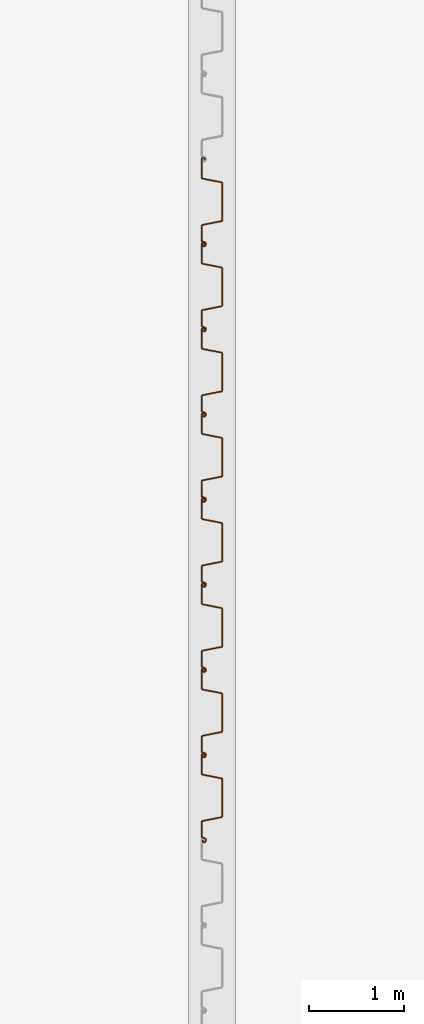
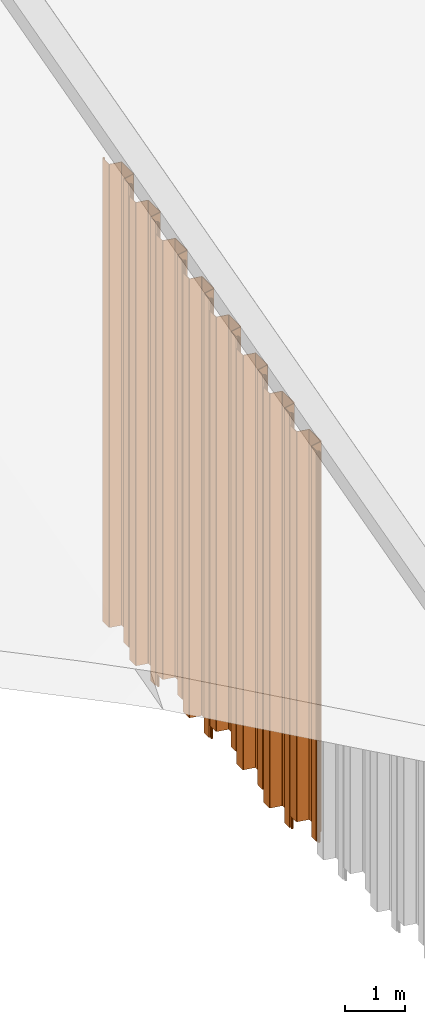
# One storey, part 24 of 32: 8 proxies.
"""IFC2X3 building model written with IfcOpenShell, lengths in millimetres."""

import ifcopenshell
import ifcopenshell.guid

model = None  # the IFC model being written
_history = None  # IfcOwnerHistory: only IFC2X3 demands one
_inside = {}  # id of a spatial element -> (the spatial element, [elements in it])
_under = {}  # id of a project, library or spatial element -> (it, [spatial elements below it])
_declared = {}  # id of a project -> (the project, [libraries it declares])
_typed = {}  # id of a type object -> (the type object, [elements of that type])
_made_of = {}  # id of a material, layer set ... -> (it, [elements and type objects made of it])


def new_model(schema):
    """Start an empty IFC model of exactly this schema.

    Asked for "IFC4X3", IfcOpenShell would pick the latest addendum, in which some entities
    have other attributes; the version numbers below select the first issue.
    IFC2X3 requires an IfcOwnerHistory on every rooted entity: one is made here for all.
    """
    global model, _history
    if schema == "IFC4X3":
        model = ifcopenshell.file(schema_version=(4, 3, 0, 0))
    else:
        model = ifcopenshell.file(schema=schema)
    _inside.clear()
    _under.clear()
    _declared.clear()
    _typed.clear()
    _made_of.clear()
    _history = None
    if model.schema == "IFC2X3":
        org = make("IfcOrganization", Name="unknown")
        user = make(
            "IfcPersonAndOrganization",
            ThePerson=make("IfcPerson", FamilyName="unknown"),
            TheOrganization=org,
        )
        app = make(
            "IfcApplication",
            ApplicationDeveloper=org,
            Version="unknown",
            ApplicationFullName="unknown",
            ApplicationIdentifier="unknown",
        )
        _history = make(
            "IfcOwnerHistory",
            OwningUser=user,
            OwningApplication=app,
            ChangeAction="ADDED",
            CreationDate=0,
        )
    return model


def make(cls, **values):
    """One entity of the class cls with the attributes given. An attribute that is None is left unset."""
    return model.create_entity(
        cls, **{name: value for name, value in values.items() if value is not None}
    )


def entity(cls, *values):
    """Any entity or typed value of the class cls, its attributes in the order of the schema. None: left unset."""
    e = model.create_entity(cls)
    for i, value in enumerate(values):
        if value is not None:
            e[i] = value
    return e


def rooted(cls, **values):
    """An entity with a GlobalId (a new one), such as an element, a storey or a relation."""
    return make(cls, GlobalId=ifcopenshell.guid.new(), OwnerHistory=_history, **values)


def si_unit(unit_type, name, prefix=None):
    """IfcSIUnit, for example si_unit("LENGTHUNIT", "METRE", prefix="MILLI")."""
    return make("IfcSIUnit", UnitType=unit_type, Prefix=prefix, Name=name)


def converted_unit(unit_type, name, factor, base, dimensions=None, offset=None):
    """IfcConversionBasedUnit, such as the inch: factor (a typed value) times the base unit."""
    return make(
        "IfcConversionBasedUnit"
        if offset is None
        else "IfcConversionBasedUnitWithOffset",
        ConversionOffset=offset,
        Dimensions=None
        if dimensions is None
        else entity("IfcDimensionalExponents", *dimensions),
        UnitType=unit_type,
        Name=name,
        ConversionFactor=make(
            "IfcMeasureWithUnit", ValueComponent=factor, UnitComponent=base
        ),
    )


def derived_unit(unit_type, elements):
    """IfcDerivedUnit: a product of units, each with its exponent."""
    return make(
        "IfcDerivedUnit",
        Elements=[
            make("IfcDerivedUnitElement", Unit=unit, Exponent=power)
            for unit, power in elements
        ],
        UnitType=unit_type,
    )


def assignment(units):
    """IfcUnitAssignment: the units of a project."""
    return None if units is None else make("IfcUnitAssignment", Units=units)


def point(xyz):
    """IfcCartesianPoint."""
    return None if xyz is None else make("IfcCartesianPoint", Coordinates=xyz)


def direction(xyz):
    """IfcDirection."""
    return None if xyz is None else make("IfcDirection", DirectionRatios=xyz)


def frame(location, z_axis=None, x_axis=None):
    """IfcAxis2Placement3D, a coordinate frame: its origin and axes. An axis left out is left unset."""
    return make(
        "IfcAxis2Placement3D",
        Location=point(location),
        Axis=direction(z_axis),
        RefDirection=direction(x_axis),
    )


def frame_2d(location, x_axis=None):
    """IfcAxis2Placement2D, a coordinate frame in the plane: its origin and x axis."""
    return make(
        "IfcAxis2Placement2D", Location=point(location), RefDirection=direction(x_axis)
    )


def origin():
    """The frame at (0, 0, 0) with its axes left unset."""
    return frame((0.0, 0.0, 0.0))


def place(relative_to, where):
    """IfcLocalPlacement: puts the frame where relative to a parent placement (None: the world)."""
    return make(
        "IfcLocalPlacement", PlacementRelTo=relative_to, RelativePlacement=where
    )


def context(
    kind, dimensions, precision=None, world=None, true_north=None, identifier=None
):
    """IfcGeometricRepresentationContext, for example the 3D "Model" context."""
    return make(
        "IfcGeometricRepresentationContext",
        ContextIdentifier=identifier,
        ContextType=kind,
        CoordinateSpaceDimension=dimensions,
        Precision=precision,
        WorldCoordinateSystem=world,
        TrueNorth=true_north,
    )


def subcontext(parent, identifier, kind, view, scale=None):
    """IfcGeometricRepresentationSubContext, for example "Body" below "Model"."""
    return make(
        "IfcGeometricRepresentationSubContext",
        ContextIdentifier=identifier,
        ContextType=kind,
        ParentContext=parent,
        TargetScale=scale,
        TargetView=view,
    )


def project(units=None, contexts=None):
    """IfcProject with its units and contexts."""
    return rooted(
        "IfcProject",
        Name="project",
        RepresentationContexts=contexts,
        UnitsInContext=assignment(units),
    )


def spatial(cls, under=None, at=None, **own):
    """A site, building, storey or space (cls), placed at a placement, below another one or the project."""
    s = rooted(cls, ObjectPlacement=at, **own)
    if under is not None:
        _under.setdefault(under.id(), (under, []))[1].append(s)
    return s


def polyline(points):
    """IfcPolyline through the points."""
    return make("IfcPolyline", Points=[point(p) for p in points])


def circle_curve(where, radius):
    """IfcCircle in the frame where."""
    return make("IfcCircle", Position=where, Radius=radius)


def parameter(value):
    """IfcParameterValue: where a trimmed curve begins or ends, as a parameter of its basis curve."""
    return model.create_entity("IfcParameterValue", value)


def trimmed(basis, trim1, trim2, sense, master):
    """IfcTrimmedCurve: the piece of a basis curve between two trims."""
    return make(
        "IfcTrimmedCurve",
        BasisCurve=basis,
        Trim1=trim1,
        Trim2=trim2,
        SenseAgreement=sense,
        MasterRepresentation=master,
    )


def segment(curve, same_sense, transition):
    """IfcCompositeCurveSegment."""
    return make(
        "IfcCompositeCurveSegment",
        Transition=transition,
        SameSense=same_sense,
        ParentCurve=curve,
    )


def composite_curve(segments, self_intersect=None):
    """IfcCompositeCurve: segments joined end to end."""
    return make("IfcCompositeCurve", Segments=segments, SelfIntersect=self_intersect)


def outline(outer, holes=None, kind="AREA"):
    """IfcArbitraryClosedProfileDef: a profile drawn as a closed curve; with holes, ...WithVoids."""
    if holes is None:
        return make("IfcArbitraryClosedProfileDef", ProfileType=kind, OuterCurve=outer)
    return make(
        "IfcArbitraryProfileDefWithVoids",
        ProfileType=kind,
        OuterCurve=outer,
        InnerCurves=holes,
    )


def extrude(swept, where, along, depth):
    """IfcExtrudedAreaSolid: the profile swept, set in the frame where, extruded along a direction by depth."""
    return make(
        "IfcExtrudedAreaSolid",
        SweptArea=swept,
        Position=where,
        ExtrudedDirection=direction(along),
        Depth=depth,
    )


def shape(context_of_items, identifier, shape_type, items):
    """IfcShapeRepresentation: the items that make up one representation, for example the "Body"."""
    return make(
        "IfcShapeRepresentation",
        ContextOfItems=context_of_items,
        RepresentationIdentifier=identifier,
        RepresentationType=shape_type,
        Items=items,
    )


def source(mapping_origin, context_of_items, identifier, shape_type, items):
    """IfcRepresentationMap: a shape defined once, which mapped items show again and again."""
    return make(
        "IfcRepresentationMap",
        MappingOrigin=mapping_origin,
        MappedRepresentation=shape(context_of_items, identifier, shape_type, items),
    )


def transform(
    local_origin,
    x_axis=None,
    y_axis=None,
    z_axis=None,
    scale=None,
    scale2=None,
    scale3=None,
    uniform=True,
):
    """IfcCartesianTransformationOperator3D, or its non-uniform kind. x_axis, y_axis, z_axis: its Axis1, 2, 3."""
    if uniform:
        return make(
            "IfcCartesianTransformationOperator3D",
            Axis1=direction(x_axis),
            Axis2=direction(y_axis),
            LocalOrigin=point(local_origin),
            Scale=scale,
            Axis3=direction(z_axis),
        )
    return make(
        "IfcCartesianTransformationOperator3DnonUniform",
        Axis1=direction(x_axis),
        Axis2=direction(y_axis),
        LocalOrigin=point(local_origin),
        Scale=scale,
        Axis3=direction(z_axis),
        Scale2=scale2,
        Scale3=scale3,
    )


def mapped(mapping_source, mapping_target):
    """IfcMappedItem: shows the shape of a source again, moved by a transform."""
    return make(
        "IfcMappedItem", MappingSource=mapping_source, MappingTarget=mapping_target
    )


def made_of(thing, what):
    """Note that an element or type object is made of a material, layer set ...; save() writes the relation."""
    if what is not None:
        _made_of.setdefault(what.id(), (what, []))[1].append(thing)
    return thing


def type_object(cls, material=None, **own):
    """A type object (cls), such as IfcWallType, which elements share."""
    return made_of(rooted(cls, **own), material)


def type_shapes(of_type, sources):
    """Give a type object the sources (RepresentationMaps) that its elements show as mapped items."""
    of_type.RepresentationMaps = sources


def element(
    cls,
    number,
    at=None,
    inside=None,
    cuts=None,
    type_object=None,
    material=None,
    context=None,
    identifier="Body",
    shape_type=None,
    held_by="IfcProductDefinitionShape",
    body=None,
    shapes=None,
    **own,
):
    """One element of the class cls, such as IfcWall. Its Tag is "e" and its number.

    at: its placement. inside: the storey or other place that contains it. cuts: it is an
    opening in that element (IfcRelVoidsElement). A single representation is given by context,
    identifier, shape_type and body (its items); several are given by shapes. held_by: the class
    of the entity that holds the representations. save() writes the other relations.
    """
    e = rooted(cls, Tag="e%d" % number, ObjectPlacement=at, **own)
    if body is not None:
        shapes = [shape(context, identifier, shape_type, body)]
    if shapes is not None:
        e.Representation = make(held_by, Representations=shapes)
    if inside is not None:
        _inside.setdefault(inside.id(), (inside, []))[1].append(e)
    if cuts is not None:
        rooted(
            "IfcRelVoidsElement", RelatingBuildingElement=cuts, RelatedOpeningElement=e
        )
    if type_object is not None:
        _typed.setdefault(type_object.id(), (type_object, []))[1].append(e)
    return made_of(e, material)


def aggregate(whole, parts):
    """IfcRelAggregates: a whole, such as a stair, and the parts it consists of."""
    return rooted("IfcRelAggregates", RelatingObject=whole, RelatedObjects=parts)


def save(model, path):
    """Write the relations noted so far, then the file.

    IfcRelAggregates (storeys below a building ...), IfcRelContainedInSpatialStructure (elements
    in a storey), IfcRelDefinesByType, IfcRelAssociatesMaterial and IfcRelDeclares: one each for
    every whole, place, type object, material and project.
    """
    for whole, parts in _under.values():
        aggregate(whole, parts)
    for where, things in _inside.values():
        rooted(
            "IfcRelContainedInSpatialStructure",
            RelatedElements=things,
            RelatingStructure=where,
        )
    for kind, things in _typed.values():
        rooted("IfcRelDefinesByType", RelatedObjects=things, RelatingType=kind)
    for what, things in _made_of.values():
        rooted("IfcRelAssociatesMaterial", RelatedObjects=things, RelatingMaterial=what)
    for by, libraries in _declared.values():
        rooted("IfcRelDeclares", RelatingContext=by, RelatedDefinitions=libraries)
    model.write(path)


model = new_model("IFC2X3")

# Units and contexts
model_context = context("Model", 3, precision=0.01, world=origin(), true_north=direction((6.12303176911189e-17, 1.0)))
body_context = subcontext(model_context, "Body", "Model", "MODEL_VIEW")
ifc_project = project(units=[si_unit("LENGTHUNIT", "METRE", prefix="MILLI"), si_unit("AREAUNIT", "SQUARE_METRE"), si_unit("VOLUMEUNIT", "CUBIC_METRE"), converted_unit("PLANEANGLEUNIT", "DEGREE", entity("IfcRatioMeasure", 0.0174532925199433), si_unit("PLANEANGLEUNIT", "RADIAN"), dimensions=[0, 0, 0, 0, 0, 0, 0]), si_unit("MASSUNIT", "GRAM", prefix="KILO"), derived_unit("MASSDENSITYUNIT", [(si_unit("MASSUNIT", "GRAM", prefix="KILO"), 1), (si_unit("LENGTHUNIT", "METRE"), -3)]), si_unit("TIMEUNIT", "SECOND"), si_unit("FREQUENCYUNIT", "HERTZ"), si_unit("THERMODYNAMICTEMPERATUREUNIT", "DEGREE_CELSIUS"), derived_unit("THERMALTRANSMITTANCEUNIT", [(si_unit("MASSUNIT", "GRAM", prefix="KILO"), 1), (si_unit("THERMODYNAMICTEMPERATUREUNIT", "KELVIN"), -1), (si_unit("TIMEUNIT", "SECOND"), -3)]), derived_unit("VOLUMETRICFLOWRATEUNIT", [(si_unit("LENGTHUNIT", "METRE"), 3), (si_unit("TIMEUNIT", "SECOND"), -1)]), si_unit("ELECTRICCURRENTUNIT", "AMPERE"), si_unit("ELECTRICVOLTAGEUNIT", "VOLT"), si_unit("POWERUNIT", "WATT"), si_unit("FORCEUNIT", "NEWTON", prefix="KILO"), si_unit("ILLUMINANCEUNIT", "LUX"), si_unit("LUMINOUSFLUXUNIT", "LUMEN"), si_unit("LUMINOUSINTENSITYUNIT", "CANDELA"), derived_unit("USERDEFINED", [(si_unit("MASSUNIT", "GRAM", prefix="KILO"), -1), (si_unit("LENGTHUNIT", "METRE"), -2), (si_unit("TIMEUNIT", "SECOND"), 3), (si_unit("LUMINOUSFLUXUNIT", "LUMEN"), 1)]), derived_unit("LINEARVELOCITYUNIT", [(si_unit("LENGTHUNIT", "METRE"), 1), (si_unit("TIMEUNIT", "SECOND"), -1)]), si_unit("PRESSUREUNIT", "PASCAL"), derived_unit("USERDEFINED", [(si_unit("LENGTHUNIT", "METRE"), -2), (si_unit("MASSUNIT", "GRAM", prefix="KILO"), 1), (si_unit("TIMEUNIT", "SECOND"), -2)])], contexts=[model_context])

# Site, building, storey
site_placement = place(None, origin())
site = spatial("IfcSite", under=ifc_project, at=site_placement, Name="Default", CompositionType="ELEMENT")
building_placement = place(site_placement, origin())
building = spatial("IfcBuilding", under=site, at=building_placement, CompositionType="ELEMENT")
storey_placement = place(building_placement, origin())
storey = spatial("IfcBuildingStorey", under=building, at=storey_placement, Name="矢板", CompositionType="ELEMENT", Elevation=0.0)

# Proxies
building_element_proxy_type_1 = type_object("IfcBuildingElementProxyType", Name="鋼矢板10H型", PredefinedType="NOTDEFINED")
shared_shape_1 = source(origin(), body_context, "Body", "SweptSolid", [
    extrude(outline(composite_curve([segment(trimmed(circle_curve(frame_2d((85.3662976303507, 306.644432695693), x_axis=(0.422618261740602, 0.906307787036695)), 13.885714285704), [parameter(24.9999999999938)], [parameter(90.0000000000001)], True, "PARAMETER"), True, "CONTINUOUS"), segment(polyline([(72.7815666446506, 312.512789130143), (9.8129512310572, 177.476157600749)]), True, "CONTINUOUS"), segment(trimmed(circle_curve(frame_2d((29.3891994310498, 168.347603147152), x_axis=(0.422618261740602, 0.906307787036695)), 21.6), [parameter(90.0000000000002)], [parameter(168.69006752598)], True, "PARAMETER"), True, "CONTINUOUS"), segment(polyline([(16.598697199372, 150.941769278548), (175.329723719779, 34.2998683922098)]), True, "CONTINUOUS"), segment(trimmed(circle_curve(frame_2d((168.93447260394, 25.596951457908), x_axis=(0.422618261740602, 0.906307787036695)), 10.7999999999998), [parameter(270.0)], [parameter(348.690067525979)], True, "PARAMETER"), False, "CONTINUOUS"), segment(polyline([(178.722596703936, 21.0326742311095), (18.2974003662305, -323.000269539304)]), True, "CONTINUOUS"), segment(trimmed(circle_curve(frame_2d((8.50927626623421, -318.435992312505), x_axis=(0.422618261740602, 0.906307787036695)), 10.8), [parameter(191.30993247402)], [parameter(269.999999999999)], True, "PARAMETER"), False, "CONTINUOUS"), segment(polyline([(5.95324328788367, -328.929166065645), (-185.429973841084, -282.310113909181)]), True, "CONTINUOUS"), segment(trimmed(circle_curve(frame_2d((-190.542039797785, -303.296461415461), x_axis=(0.422618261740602, 0.906307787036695)), 21.6000000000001), [parameter(11.3099324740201)], [parameter(90.0000000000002)], True, "PARAMETER"), True, "CONTINUOUS"), segment(polyline([(-210.118287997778, -294.167906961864), (-290.330886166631, -466.184378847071)]), True, "CONTINUOUS"), segment(trimmed(circle_curve(frame_2d((-270.754637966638, -475.312933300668), x_axis=(0.422618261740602, 0.906307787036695)), 21.6), [parameter(90.0000000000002)], [parameter(269.999999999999)], True, "PARAMETER"), True, "CONTINUOUS"), segment(polyline([(-251.178389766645, -484.441487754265), (-249.065298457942, -479.909948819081)]), True, "CONTINUOUS"), segment(polyline([(-249.065298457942, -479.909948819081), (-258.853422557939, -475.345671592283)]), True, "CONTINUOUS"), segment(polyline([(-258.853422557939, -475.345671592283), (-260.966513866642, -479.877210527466)]), True, "CONTINUOUS"), segment(trimmed(circle_curve(frame_2d((-270.754637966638, -475.312933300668), x_axis=(0.422618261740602, 0.906307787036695)), 10.8), [parameter(90.0000000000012)], [parameter(270.0)], True, "PARAMETER"), False, "CONTINUOUS"), segment(polyline([(-280.542762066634, -470.748656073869), (-200.330163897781, -298.732184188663)]), True, "CONTINUOUS"), segment(trimmed(circle_curve(frame_2d((-190.542039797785, -303.296461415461), x_axis=(0.422618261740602, 0.906307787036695)), 10.8), [parameter(11.3099324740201)], [parameter(89.9999999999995)], True, "PARAMETER"), False, "CONTINUOUS"), segment(polyline([(-187.986006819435, -292.803287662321), (3.39721030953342, -339.422339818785)]), True, "CONTINUOUS"), segment(trimmed(circle_curve(frame_2d((8.50927626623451, -318.435992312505), x_axis=(0.422618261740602, 0.906307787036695)), 21.6), [parameter(191.30993247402)], [parameter(270.0)], True, "PARAMETER"), True, "CONTINUOUS"), segment(polyline([(28.0855244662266, -327.564546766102), (188.510720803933, 16.4683970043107)]), True, "CONTINUOUS"), segment(trimmed(circle_curve(frame_2d((168.93447260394, 25.5969514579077), x_axis=(0.422618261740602, 0.906307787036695)), 21.6), [parameter(270.0)], [parameter(348.69006752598)], True, "PARAMETER"), True, "CONTINUOUS"), segment(polyline([(181.724974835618, 43.0027853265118), (22.9939483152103, 159.644686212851)]), True, "CONTINUOUS"), segment(trimmed(circle_curve(frame_2d((29.3891994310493, 168.347603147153), x_axis=(0.422618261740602, 0.906307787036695)), 10.7999999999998), [parameter(89.9999999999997)], [parameter(168.690067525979)], True, "PARAMETER"), False, "CONTINUOUS"), segment(polyline([(19.6010753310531, 172.911880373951), (82.5696907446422, 307.948511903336)]), True, "CONTINUOUS"), segment(trimmed(circle_curve(frame_2d((85.3662976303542, 306.64443269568), x_axis=(0.422618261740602, 0.906307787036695)), 3.08571428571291), [parameter(25.0000000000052)], [parameter(90.0000000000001)], True, "PARAMETER"), False, "CONTINUOUS"), segment(polyline([(85.3662976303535, 309.730146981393), (122.220231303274, 309.730146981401)]), True, "CONTINUOUS"), segment(trimmed(circle_curve(frame_2d((122.220231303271, 323.615861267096), x_axis=(0.422618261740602, 0.906307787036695)), 13.8857142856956), [parameter(205.000000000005)], [parameter(270.0)], True, "PARAMETER"), True, "CONTINUOUS"), segment(polyline([(134.804962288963, 317.747504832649), (141.079261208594, 331.202782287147)]), True, "CONTINUOUS"), segment(trimmed(circle_curve(frame_2d((121.503013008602, 340.331336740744), x_axis=(0.422618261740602, 0.906307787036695)), 21.6), [parameter(270.0)], [parameter(90.0000000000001)], True, "PARAMETER"), True, "CONTINUOUS"), segment(polyline([(101.926764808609, 349.459891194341), (99.8136734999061, 344.928352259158)]), True, "CONTINUOUS"), segment(polyline([(99.8136734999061, 344.928352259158), (109.601797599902, 340.364075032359)]), True, "CONTINUOUS"), segment(polyline([(109.601797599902, 340.364075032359), (111.714888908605, 344.895613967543)]), True, "CONTINUOUS"), segment(trimmed(circle_curve(frame_2d((121.503013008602, 340.331336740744), x_axis=(0.422618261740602, 0.906307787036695)), 10.8), [parameter(270.0)], [parameter(89.9999999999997)], True, "PARAMETER"), False, "CONTINUOUS"), segment(polyline([(131.291137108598, 335.767059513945), (125.01683818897, 322.311782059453)]), True, "CONTINUOUS"), segment(trimmed(circle_curve(frame_2d((122.220231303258, 323.615861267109), x_axis=(0.422618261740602, 0.906307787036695)), 3.08571428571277), [parameter(204.999999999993)], [parameter(270.0)], True, "PARAMETER"), False, "CONTINUOUS"), segment(polyline([(122.220231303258, 320.530146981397), (85.3662976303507, 320.530146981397)]), True, "CONTINUOUS")], self_intersect=False)), frame((95.205667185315, -48.8888888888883, -8000.0), z_axis=(0.0, 0.0, -1.0), x_axis=(0.4226182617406, 0.906307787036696, 0.0)), (0.0, 0.0, -1.0), 8000.0),
])
type_shapes(building_element_proxy_type_1, [shared_shape_1])
proxy_placement = place(storey_placement, frame((148500.0, -16849.0, 10131.0), z_axis=(0.0, 0.0, 1.0), x_axis=(0.0, -1.0, 0.0)))
element("IfcBuildingElementProxy", 1, at=proxy_placement, inside=storey, type_object=building_element_proxy_type_1, Name="鋼矢板10H型:鋼矢板10H型", ObjectType="鋼矢板10H型:鋼矢板10H型", context=body_context, shape_type="MappedRepresentation", body=[
    mapped(shared_shape_1, transform((0.0, 0.0, 0.0), scale=1.0)),
])
building_element_proxy_type_2 = type_object("IfcBuildingElementProxyType", Name="鋼矢板10H型", PredefinedType="NOTDEFINED")
shared_shape_2 = source(origin(), body_context, "Body", "SweptSolid", [
    extrude(outline(composite_curve([segment(trimmed(circle_curve(frame_2d((85.3662976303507, 306.644432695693), x_axis=(0.422618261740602, 0.906307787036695)), 13.885714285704), [parameter(24.9999999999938)], [parameter(90.0000000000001)], True, "PARAMETER"), True, "CONTINUOUS"), segment(polyline([(72.7815666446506, 312.512789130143), (9.8129512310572, 177.476157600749)]), True, "CONTINUOUS"), segment(trimmed(circle_curve(frame_2d((29.3891994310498, 168.347603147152), x_axis=(0.422618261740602, 0.906307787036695)), 21.6), [parameter(90.0000000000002)], [parameter(168.69006752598)], True, "PARAMETER"), True, "CONTINUOUS"), segment(polyline([(16.598697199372, 150.941769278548), (175.329723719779, 34.2998683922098)]), True, "CONTINUOUS"), segment(trimmed(circle_curve(frame_2d((168.93447260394, 25.596951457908), x_axis=(0.422618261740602, 0.906307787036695)), 10.7999999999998), [parameter(270.0)], [parameter(348.690067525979)], True, "PARAMETER"), False, "CONTINUOUS"), segment(polyline([(178.722596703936, 21.0326742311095), (18.2974003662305, -323.000269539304)]), True, "CONTINUOUS"), segment(trimmed(circle_curve(frame_2d((8.50927626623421, -318.435992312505), x_axis=(0.422618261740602, 0.906307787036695)), 10.8), [parameter(191.30993247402)], [parameter(269.999999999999)], True, "PARAMETER"), False, "CONTINUOUS"), segment(polyline([(5.95324328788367, -328.929166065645), (-185.429973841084, -282.310113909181)]), True, "CONTINUOUS"), segment(trimmed(circle_curve(frame_2d((-190.542039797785, -303.296461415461), x_axis=(0.422618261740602, 0.906307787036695)), 21.6000000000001), [parameter(11.3099324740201)], [parameter(90.0000000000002)], True, "PARAMETER"), True, "CONTINUOUS"), segment(polyline([(-210.118287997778, -294.167906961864), (-290.330886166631, -466.184378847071)]), True, "CONTINUOUS"), segment(trimmed(circle_curve(frame_2d((-270.754637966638, -475.312933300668), x_axis=(0.422618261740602, 0.906307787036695)), 21.6), [parameter(90.0000000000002)], [parameter(269.999999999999)], True, "PARAMETER"), True, "CONTINUOUS"), segment(polyline([(-251.178389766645, -484.441487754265), (-249.065298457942, -479.909948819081)]), True, "CONTINUOUS"), segment(polyline([(-249.065298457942, -479.909948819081), (-258.853422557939, -475.345671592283)]), True, "CONTINUOUS"), segment(polyline([(-258.853422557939, -475.345671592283), (-260.966513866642, -479.877210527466)]), True, "CONTINUOUS"), segment(trimmed(circle_curve(frame_2d((-270.754637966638, -475.312933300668), x_axis=(0.422618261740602, 0.906307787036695)), 10.8), [parameter(90.0000000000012)], [parameter(270.0)], True, "PARAMETER"), False, "CONTINUOUS"), segment(polyline([(-280.542762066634, -470.748656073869), (-200.330163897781, -298.732184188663)]), True, "CONTINUOUS"), segment(trimmed(circle_curve(frame_2d((-190.542039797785, -303.296461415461), x_axis=(0.422618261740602, 0.906307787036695)), 10.8), [parameter(11.3099324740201)], [parameter(89.9999999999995)], True, "PARAMETER"), False, "CONTINUOUS"), segment(polyline([(-187.986006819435, -292.803287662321), (3.39721030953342, -339.422339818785)]), True, "CONTINUOUS"), segment(trimmed(circle_curve(frame_2d((8.50927626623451, -318.435992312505), x_axis=(0.422618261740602, 0.906307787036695)), 21.6), [parameter(191.30993247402)], [parameter(270.0)], True, "PARAMETER"), True, "CONTINUOUS"), segment(polyline([(28.0855244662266, -327.564546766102), (188.510720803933, 16.4683970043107)]), True, "CONTINUOUS"), segment(trimmed(circle_curve(frame_2d((168.93447260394, 25.5969514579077), x_axis=(0.422618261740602, 0.906307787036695)), 21.6), [parameter(270.0)], [parameter(348.69006752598)], True, "PARAMETER"), True, "CONTINUOUS"), segment(polyline([(181.724974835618, 43.0027853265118), (22.9939483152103, 159.644686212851)]), True, "CONTINUOUS"), segment(trimmed(circle_curve(frame_2d((29.3891994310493, 168.347603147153), x_axis=(0.422618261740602, 0.906307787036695)), 10.7999999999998), [parameter(89.9999999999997)], [parameter(168.690067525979)], True, "PARAMETER"), False, "CONTINUOUS"), segment(polyline([(19.6010753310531, 172.911880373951), (82.5696907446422, 307.948511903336)]), True, "CONTINUOUS"), segment(trimmed(circle_curve(frame_2d((85.3662976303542, 306.64443269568), x_axis=(0.422618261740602, 0.906307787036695)), 3.08571428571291), [parameter(25.0000000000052)], [parameter(90.0000000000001)], True, "PARAMETER"), False, "CONTINUOUS"), segment(polyline([(85.3662976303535, 309.730146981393), (122.220231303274, 309.730146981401)]), True, "CONTINUOUS"), segment(trimmed(circle_curve(frame_2d((122.220231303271, 323.615861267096), x_axis=(0.422618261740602, 0.906307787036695)), 13.8857142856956), [parameter(205.000000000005)], [parameter(270.0)], True, "PARAMETER"), True, "CONTINUOUS"), segment(polyline([(134.804962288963, 317.747504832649), (141.079261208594, 331.202782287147)]), True, "CONTINUOUS"), segment(trimmed(circle_curve(frame_2d((121.503013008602, 340.331336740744), x_axis=(0.422618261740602, 0.906307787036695)), 21.6), [parameter(270.0)], [parameter(90.0000000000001)], True, "PARAMETER"), True, "CONTINUOUS"), segment(polyline([(101.926764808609, 349.459891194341), (99.8136734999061, 344.928352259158)]), True, "CONTINUOUS"), segment(polyline([(99.8136734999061, 344.928352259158), (109.601797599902, 340.364075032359)]), True, "CONTINUOUS"), segment(polyline([(109.601797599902, 340.364075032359), (111.714888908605, 344.895613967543)]), True, "CONTINUOUS"), segment(trimmed(circle_curve(frame_2d((121.503013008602, 340.331336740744), x_axis=(0.422618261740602, 0.906307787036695)), 10.8), [parameter(270.0)], [parameter(89.9999999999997)], True, "PARAMETER"), False, "CONTINUOUS"), segment(polyline([(131.291137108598, 335.767059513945), (125.01683818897, 322.311782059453)]), True, "CONTINUOUS"), segment(trimmed(circle_curve(frame_2d((122.220231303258, 323.615861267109), x_axis=(0.422618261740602, 0.906307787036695)), 3.08571428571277), [parameter(204.999999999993)], [parameter(270.0)], True, "PARAMETER"), False, "CONTINUOUS"), segment(polyline([(122.220231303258, 320.530146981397), (85.3662976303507, 320.530146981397)]), True, "CONTINUOUS")], self_intersect=False)), frame((95.205667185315, -48.8888888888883, -8500.0), z_axis=(0.0, 0.0, -1.0), x_axis=(0.4226182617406, 0.906307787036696, 0.0)), (0.0, 0.0, -1.0), 8500.0),
])
type_shapes(building_element_proxy_type_2, [shared_shape_2])
for number, where, z_axis, x_axis in (
    (2, (148500.0, -14149.0, 10843.0), (0.0, 0.0, 1.0), (0.0, -1.0, 0.0)),
    (3, (148500.0, -15049.0, 10605.0), (0.0, 0.0, 1.0), (0.0, -1.0, 0.0)),
    (4, (148500.0, -15949.0, 10368.0), (0.0, 0.0, 1.0), (0.0, -1.0, 0.0)),
):
    element("IfcBuildingElementProxy", number, at=place(storey_placement, frame(where, z_axis=z_axis, x_axis=x_axis)), inside=storey, type_object=building_element_proxy_type_2, Name="鋼矢板10H型:鋼矢板10H型", ObjectType="鋼矢板10H型:鋼矢板10H型", context=body_context, shape_type="MappedRepresentation", body=[
        mapped(shared_shape_2, transform((0.0, 0.0, 0.0), scale=1.0)),
    ])
building_element_proxy_type_3 = type_object("IfcBuildingElementProxyType", Name="鋼矢板10H型", PredefinedType="NOTDEFINED")
shared_shape_3 = source(origin(), body_context, "Body", "SweptSolid", [
    extrude(outline(composite_curve([segment(trimmed(circle_curve(frame_2d((85.3662976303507, 306.644432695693), x_axis=(0.422618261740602, 0.906307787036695)), 13.885714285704), [parameter(24.9999999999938)], [parameter(90.0000000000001)], True, "PARAMETER"), True, "CONTINUOUS"), segment(polyline([(72.7815666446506, 312.512789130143), (9.8129512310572, 177.476157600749)]), True, "CONTINUOUS"), segment(trimmed(circle_curve(frame_2d((29.3891994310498, 168.347603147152), x_axis=(0.422618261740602, 0.906307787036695)), 21.6), [parameter(90.0000000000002)], [parameter(168.69006752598)], True, "PARAMETER"), True, "CONTINUOUS"), segment(polyline([(16.598697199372, 150.941769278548), (175.329723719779, 34.2998683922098)]), True, "CONTINUOUS"), segment(trimmed(circle_curve(frame_2d((168.93447260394, 25.596951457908), x_axis=(0.422618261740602, 0.906307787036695)), 10.7999999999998), [parameter(270.0)], [parameter(348.690067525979)], True, "PARAMETER"), False, "CONTINUOUS"), segment(polyline([(178.722596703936, 21.0326742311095), (18.2974003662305, -323.000269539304)]), True, "CONTINUOUS"), segment(trimmed(circle_curve(frame_2d((8.50927626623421, -318.435992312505), x_axis=(0.422618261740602, 0.906307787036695)), 10.8), [parameter(191.30993247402)], [parameter(269.999999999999)], True, "PARAMETER"), False, "CONTINUOUS"), segment(polyline([(5.95324328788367, -328.929166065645), (-185.429973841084, -282.310113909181)]), True, "CONTINUOUS"), segment(trimmed(circle_curve(frame_2d((-190.542039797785, -303.296461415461), x_axis=(0.422618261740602, 0.906307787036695)), 21.6000000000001), [parameter(11.3099324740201)], [parameter(90.0000000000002)], True, "PARAMETER"), True, "CONTINUOUS"), segment(polyline([(-210.118287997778, -294.167906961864), (-290.330886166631, -466.184378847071)]), True, "CONTINUOUS"), segment(trimmed(circle_curve(frame_2d((-270.754637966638, -475.312933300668), x_axis=(0.422618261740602, 0.906307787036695)), 21.6), [parameter(90.0000000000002)], [parameter(269.999999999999)], True, "PARAMETER"), True, "CONTINUOUS"), segment(polyline([(-251.178389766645, -484.441487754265), (-249.065298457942, -479.909948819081)]), True, "CONTINUOUS"), segment(polyline([(-249.065298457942, -479.909948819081), (-258.853422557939, -475.345671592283)]), True, "CONTINUOUS"), segment(polyline([(-258.853422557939, -475.345671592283), (-260.966513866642, -479.877210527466)]), True, "CONTINUOUS"), segment(trimmed(circle_curve(frame_2d((-270.754637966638, -475.312933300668), x_axis=(0.422618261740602, 0.906307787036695)), 10.8), [parameter(90.0000000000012)], [parameter(270.0)], True, "PARAMETER"), False, "CONTINUOUS"), segment(polyline([(-280.542762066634, -470.748656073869), (-200.330163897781, -298.732184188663)]), True, "CONTINUOUS"), segment(trimmed(circle_curve(frame_2d((-190.542039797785, -303.296461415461), x_axis=(0.422618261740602, 0.906307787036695)), 10.8), [parameter(11.3099324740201)], [parameter(89.9999999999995)], True, "PARAMETER"), False, "CONTINUOUS"), segment(polyline([(-187.986006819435, -292.803287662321), (3.39721030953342, -339.422339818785)]), True, "CONTINUOUS"), segment(trimmed(circle_curve(frame_2d((8.50927626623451, -318.435992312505), x_axis=(0.422618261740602, 0.906307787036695)), 21.6), [parameter(191.30993247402)], [parameter(270.0)], True, "PARAMETER"), True, "CONTINUOUS"), segment(polyline([(28.0855244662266, -327.564546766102), (188.510720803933, 16.4683970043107)]), True, "CONTINUOUS"), segment(trimmed(circle_curve(frame_2d((168.93447260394, 25.5969514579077), x_axis=(0.422618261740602, 0.906307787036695)), 21.6), [parameter(270.0)], [parameter(348.69006752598)], True, "PARAMETER"), True, "CONTINUOUS"), segment(polyline([(181.724974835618, 43.0027853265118), (22.9939483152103, 159.644686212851)]), True, "CONTINUOUS"), segment(trimmed(circle_curve(frame_2d((29.3891994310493, 168.347603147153), x_axis=(0.422618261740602, 0.906307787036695)), 10.7999999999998), [parameter(89.9999999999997)], [parameter(168.690067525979)], True, "PARAMETER"), False, "CONTINUOUS"), segment(polyline([(19.6010753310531, 172.911880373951), (82.5696907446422, 307.948511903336)]), True, "CONTINUOUS"), segment(trimmed(circle_curve(frame_2d((85.3662976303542, 306.64443269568), x_axis=(0.422618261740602, 0.906307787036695)), 3.08571428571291), [parameter(25.0000000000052)], [parameter(90.0000000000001)], True, "PARAMETER"), False, "CONTINUOUS"), segment(polyline([(85.3662976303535, 309.730146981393), (122.220231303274, 309.730146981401)]), True, "CONTINUOUS"), segment(trimmed(circle_curve(frame_2d((122.220231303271, 323.615861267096), x_axis=(0.422618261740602, 0.906307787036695)), 13.8857142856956), [parameter(205.000000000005)], [parameter(270.0)], True, "PARAMETER"), True, "CONTINUOUS"), segment(polyline([(134.804962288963, 317.747504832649), (141.079261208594, 331.202782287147)]), True, "CONTINUOUS"), segment(trimmed(circle_curve(frame_2d((121.503013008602, 340.331336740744), x_axis=(0.422618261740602, 0.906307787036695)), 21.6), [parameter(270.0)], [parameter(90.0000000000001)], True, "PARAMETER"), True, "CONTINUOUS"), segment(polyline([(101.926764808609, 349.459891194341), (99.8136734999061, 344.928352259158)]), True, "CONTINUOUS"), segment(polyline([(99.8136734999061, 344.928352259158), (109.601797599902, 340.364075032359)]), True, "CONTINUOUS"), segment(polyline([(109.601797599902, 340.364075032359), (111.714888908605, 344.895613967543)]), True, "CONTINUOUS"), segment(trimmed(circle_curve(frame_2d((121.503013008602, 340.331336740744), x_axis=(0.422618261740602, 0.906307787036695)), 10.8), [parameter(270.0)], [parameter(89.9999999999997)], True, "PARAMETER"), False, "CONTINUOUS"), segment(polyline([(131.291137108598, 335.767059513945), (125.01683818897, 322.311782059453)]), True, "CONTINUOUS"), segment(trimmed(circle_curve(frame_2d((122.220231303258, 323.615861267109), x_axis=(0.422618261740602, 0.906307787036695)), 3.08571428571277), [parameter(204.999999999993)], [parameter(270.0)], True, "PARAMETER"), False, "CONTINUOUS"), segment(polyline([(122.220231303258, 320.530146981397), (85.3662976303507, 320.530146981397)]), True, "CONTINUOUS")], self_intersect=False)), frame((95.205667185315, -48.8888888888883, -9000.0), z_axis=(0.0, 0.0, -1.0), x_axis=(0.4226182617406, 0.906307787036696, 0.0)), (0.0, 0.0, -1.0), 9000.0),
])
type_shapes(building_element_proxy_type_3, [shared_shape_3])
for number, where, z_axis, x_axis in (
    (5, (148500.0, -12349.0, 11317.0), (0.0, 0.0, 1.0), (0.0, -1.0, 0.0)),
    (6, (148500.0, -13249.0, 11080.0), (0.0, 0.0, 1.0), (0.0, -1.0, 0.0)),
):
    element("IfcBuildingElementProxy", number, at=place(storey_placement, frame(where, z_axis=z_axis, x_axis=x_axis)), inside=storey, type_object=building_element_proxy_type_3, Name="鋼矢板10H型:鋼矢板10H型", ObjectType="鋼矢板10H型:鋼矢板10H型", context=body_context, shape_type="MappedRepresentation", body=[
        mapped(shared_shape_3, transform((0.0, 0.0, 0.0), scale=1.0)),
    ])
building_element_proxy_type_4 = type_object("IfcBuildingElementProxyType", Name="鋼矢板10H型", PredefinedType="NOTDEFINED")
shared_shape_4 = source(origin(), body_context, "Body", "SweptSolid", [
    extrude(outline(composite_curve([segment(trimmed(circle_curve(frame_2d((85.3662976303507, 306.644432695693), x_axis=(0.422618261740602, 0.906307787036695)), 13.885714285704), [parameter(24.9999999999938)], [parameter(90.0000000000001)], True, "PARAMETER"), True, "CONTINUOUS"), segment(polyline([(72.7815666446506, 312.512789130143), (9.8129512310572, 177.476157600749)]), True, "CONTINUOUS"), segment(trimmed(circle_curve(frame_2d((29.3891994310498, 168.347603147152), x_axis=(0.422618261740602, 0.906307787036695)), 21.6), [parameter(90.0000000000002)], [parameter(168.69006752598)], True, "PARAMETER"), True, "CONTINUOUS"), segment(polyline([(16.598697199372, 150.941769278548), (175.329723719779, 34.2998683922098)]), True, "CONTINUOUS"), segment(trimmed(circle_curve(frame_2d((168.93447260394, 25.596951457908), x_axis=(0.422618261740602, 0.906307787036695)), 10.7999999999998), [parameter(270.0)], [parameter(348.690067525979)], True, "PARAMETER"), False, "CONTINUOUS"), segment(polyline([(178.722596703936, 21.0326742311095), (18.2974003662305, -323.000269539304)]), True, "CONTINUOUS"), segment(trimmed(circle_curve(frame_2d((8.50927626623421, -318.435992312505), x_axis=(0.422618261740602, 0.906307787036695)), 10.8), [parameter(191.30993247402)], [parameter(269.999999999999)], True, "PARAMETER"), False, "CONTINUOUS"), segment(polyline([(5.95324328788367, -328.929166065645), (-185.429973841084, -282.310113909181)]), True, "CONTINUOUS"), segment(trimmed(circle_curve(frame_2d((-190.542039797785, -303.296461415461), x_axis=(0.422618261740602, 0.906307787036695)), 21.6000000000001), [parameter(11.3099324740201)], [parameter(90.0000000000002)], True, "PARAMETER"), True, "CONTINUOUS"), segment(polyline([(-210.118287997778, -294.167906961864), (-290.330886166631, -466.184378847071)]), True, "CONTINUOUS"), segment(trimmed(circle_curve(frame_2d((-270.754637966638, -475.312933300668), x_axis=(0.422618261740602, 0.906307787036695)), 21.6), [parameter(90.0000000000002)], [parameter(269.999999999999)], True, "PARAMETER"), True, "CONTINUOUS"), segment(polyline([(-251.178389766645, -484.441487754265), (-249.065298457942, -479.909948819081)]), True, "CONTINUOUS"), segment(polyline([(-249.065298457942, -479.909948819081), (-258.853422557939, -475.345671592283)]), True, "CONTINUOUS"), segment(polyline([(-258.853422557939, -475.345671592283), (-260.966513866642, -479.877210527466)]), True, "CONTINUOUS"), segment(trimmed(circle_curve(frame_2d((-270.754637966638, -475.312933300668), x_axis=(0.422618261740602, 0.906307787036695)), 10.8), [parameter(90.0000000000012)], [parameter(270.0)], True, "PARAMETER"), False, "CONTINUOUS"), segment(polyline([(-280.542762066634, -470.748656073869), (-200.330163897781, -298.732184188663)]), True, "CONTINUOUS"), segment(trimmed(circle_curve(frame_2d((-190.542039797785, -303.296461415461), x_axis=(0.422618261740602, 0.906307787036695)), 10.8), [parameter(11.3099324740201)], [parameter(89.9999999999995)], True, "PARAMETER"), False, "CONTINUOUS"), segment(polyline([(-187.986006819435, -292.803287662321), (3.39721030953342, -339.422339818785)]), True, "CONTINUOUS"), segment(trimmed(circle_curve(frame_2d((8.50927626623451, -318.435992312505), x_axis=(0.422618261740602, 0.906307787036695)), 21.6), [parameter(191.30993247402)], [parameter(270.0)], True, "PARAMETER"), True, "CONTINUOUS"), segment(polyline([(28.0855244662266, -327.564546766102), (188.510720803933, 16.4683970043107)]), True, "CONTINUOUS"), segment(trimmed(circle_curve(frame_2d((168.93447260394, 25.5969514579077), x_axis=(0.422618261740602, 0.906307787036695)), 21.6), [parameter(270.0)], [parameter(348.69006752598)], True, "PARAMETER"), True, "CONTINUOUS"), segment(polyline([(181.724974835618, 43.0027853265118), (22.9939483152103, 159.644686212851)]), True, "CONTINUOUS"), segment(trimmed(circle_curve(frame_2d((29.3891994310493, 168.347603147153), x_axis=(0.422618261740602, 0.906307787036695)), 10.7999999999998), [parameter(89.9999999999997)], [parameter(168.690067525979)], True, "PARAMETER"), False, "CONTINUOUS"), segment(polyline([(19.6010753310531, 172.911880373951), (82.5696907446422, 307.948511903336)]), True, "CONTINUOUS"), segment(trimmed(circle_curve(frame_2d((85.3662976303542, 306.64443269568), x_axis=(0.422618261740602, 0.906307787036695)), 3.08571428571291), [parameter(25.0000000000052)], [parameter(90.0000000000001)], True, "PARAMETER"), False, "CONTINUOUS"), segment(polyline([(85.3662976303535, 309.730146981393), (122.220231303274, 309.730146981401)]), True, "CONTINUOUS"), segment(trimmed(circle_curve(frame_2d((122.220231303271, 323.615861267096), x_axis=(0.422618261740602, 0.906307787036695)), 13.8857142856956), [parameter(205.000000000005)], [parameter(270.0)], True, "PARAMETER"), True, "CONTINUOUS"), segment(polyline([(134.804962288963, 317.747504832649), (141.079261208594, 331.202782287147)]), True, "CONTINUOUS"), segment(trimmed(circle_curve(frame_2d((121.503013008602, 340.331336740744), x_axis=(0.422618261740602, 0.906307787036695)), 21.6), [parameter(270.0)], [parameter(90.0000000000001)], True, "PARAMETER"), True, "CONTINUOUS"), segment(polyline([(101.926764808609, 349.459891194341), (99.8136734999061, 344.928352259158)]), True, "CONTINUOUS"), segment(polyline([(99.8136734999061, 344.928352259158), (109.601797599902, 340.364075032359)]), True, "CONTINUOUS"), segment(polyline([(109.601797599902, 340.364075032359), (111.714888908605, 344.895613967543)]), True, "CONTINUOUS"), segment(trimmed(circle_curve(frame_2d((121.503013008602, 340.331336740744), x_axis=(0.422618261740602, 0.906307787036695)), 10.8), [parameter(270.0)], [parameter(89.9999999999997)], True, "PARAMETER"), False, "CONTINUOUS"), segment(polyline([(131.291137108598, 335.767059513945), (125.01683818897, 322.311782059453)]), True, "CONTINUOUS"), segment(trimmed(circle_curve(frame_2d((122.220231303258, 323.615861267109), x_axis=(0.422618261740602, 0.906307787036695)), 3.08571428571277), [parameter(204.999999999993)], [parameter(270.0)], True, "PARAMETER"), False, "CONTINUOUS"), segment(polyline([(122.220231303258, 320.530146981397), (85.3662976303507, 320.530146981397)]), True, "CONTINUOUS")], self_intersect=False)), frame((95.205667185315, -48.8888888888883, -9500.0), z_axis=(0.0, 0.0, -1.0), x_axis=(0.4226182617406, 0.906307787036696, 0.0)), (0.0, 0.0, -1.0), 9500.0),
])
type_shapes(building_element_proxy_type_4, [shared_shape_4])
for number, where, z_axis, x_axis in (
    (7, (148500.0, -10549.0, 11791.0), (0.0, 0.0, 1.0), (0.0, -1.0, 0.0)),
    (8, (148500.0, -11449.0, 11554.0), (0.0, 0.0, 1.0), (0.0, -1.0, 0.0)),
):
    element("IfcBuildingElementProxy", number, at=place(storey_placement, frame(where, z_axis=z_axis, x_axis=x_axis)), inside=storey, type_object=building_element_proxy_type_4, Name="鋼矢板10H型:鋼矢板10H型", ObjectType="鋼矢板10H型:鋼矢板10H型", context=body_context, shape_type="MappedRepresentation", body=[
        mapped(shared_shape_4, transform((0.0, 0.0, 0.0), scale=1.0)),
    ])

save(model, "model.ifc")
